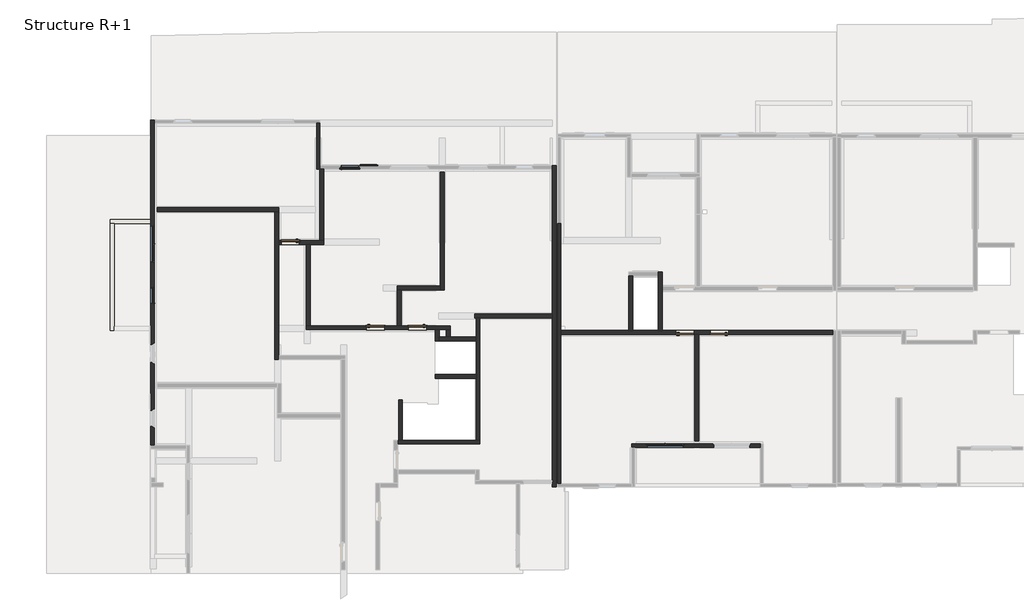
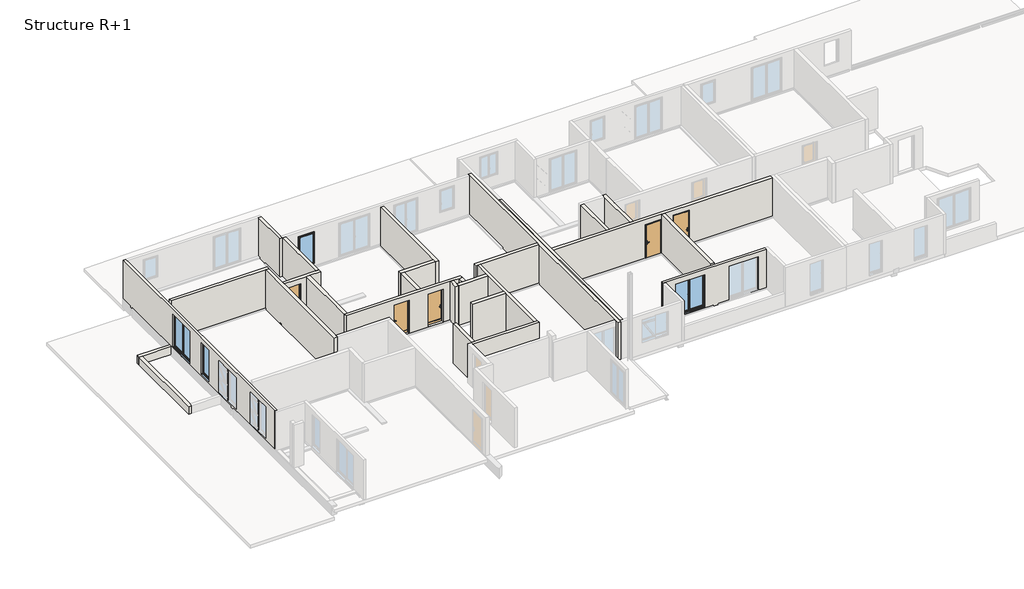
# One storey, part 3 of 11: 28 walls, 5 doors, 4 windows.
"""IFC4 building model written with IfcOpenShell, lengths in millimetres."""

from ifc_helpers import new_model, si_unit, frame, origin, place, context, project, spatial, polyline, outline, extrude, faceted_brep, transform, mapped, element, save
from components import door_88e42b76, door_c2c5d6f6, door_6208809c, door_d4e09bec, window_0_80m_x_2_05m_30132c93, window_0_90m_x_2_05m_de598733, window_1_80m_x_2_15m_7d3a4370

model = new_model("IFC4")

# Units and contexts
model_context = context("Model", 3, world=origin())
ifc_project = project(units=[si_unit("LENGTHUNIT", "METRE", prefix="MILLI")], contexts=[model_context])

# Site, building, storey
site = spatial("IfcSite", under=ifc_project)
building = spatial("IfcBuilding", under=site)
storey = spatial("IfcBuildingStorey", under=building, Name="Structure R+1", Elevation=3320.0)

# Doors
placement = place(None, origin())
door_shape = door_88e42b76(model_context)
element("IfcDoor", 1, ObjectType="Entrée (avec angle d'ouverture) : PP Avec moulures (0.90 m x 2.15 m)", at=placement, inside=storey, context=model_context, shape_type="MappedRepresentation", body=[
    mapped(door_shape, transform((31960.4628816, 22172.4973448, 3320.0), x_axis=(-1.0, 0.0, 0.0), y_axis=(0.0, -1.0, 0.0), z_axis=(0.0, 0.0, 1.0))),
])
door_2_shape = door_c2c5d6f6(model_context)
element("IfcDoor", 2, ObjectType="Entrée (avec angle d'ouverture) : PP Avec moulures (0.90 m x 2.15 m)", at=placement, inside=storey, context=model_context, shape_type="MappedRepresentation", body=[
    mapped(door_2_shape, transform((30253.8905888, 22172.4973448, 3320.0), x_axis=(1.0, 0.0, 0.0), y_axis=(0.0, 1.0, 0.0), z_axis=(0.0, 0.0, 1.0))),
])
door_3_shape = door_6208809c(model_context)
element("IfcDoor", 3, ObjectType="Entrée (avec angle d'ouverture) : PP Lisse (0.90 m x 2.15 m)", at=placement, inside=storey, context=model_context, shape_type="MappedRepresentation", body=[
    mapped(door_3_shape, transform((10498.0962852, 26677.1701287, 3320.0), x_axis=(-1.0, 0.0, 0.0), y_axis=(0.0, -1.0, 0.0), z_axis=(0.0, 0.0, 1.0))),
])
element("IfcDoor", 4, ObjectType="Entrée (avec angle d'ouverture) : PP Lisse (0.90 m x 2.15 m)", at=placement, inside=storey, context=model_context, shape_type="MappedRepresentation", body=[
    mapped(door_3_shape, transform((16855.0745996, 22408.2793913, 3320.0), x_axis=(-1.0, 0.0, 0.0), y_axis=(0.0, -1.0, 0.0), z_axis=(0.0, 0.0, 1.0))),
])
door_4_shape = door_d4e09bec(model_context)
element("IfcDoor", 5, ObjectType="Entrée (avec angle d'ouverture) : PP Lisse (0.90 m x 2.15 m)", at=placement, inside=storey, context=model_context, shape_type="MappedRepresentation", body=[
    mapped(door_4_shape, transform((14775.0745996, 22408.2793913, 3320.0), x_axis=(1.0, 0.0, 0.0), y_axis=(0.0, 1.0, 0.0), z_axis=(0.0, 0.0, 1.0))),
])

# Walls
element("IfcWall", 6, ObjectType="Ext. Voile BA 16 + Isolant 120", at=placement, inside=storey, context=model_context, shape_type="Brep", body=[
    faceted_brep([(34012.3966699, 16591.4013077, 3230.0), (30993.890362, 16591.4013077, 3230.0), (30693.890362, 16591.4013077, 3230.0), (27798.3960659, 16591.4013077, 3230.0), (27586.9796965, 16591.4013077, 3230.0), (27586.9796965, 16591.4013077, 3320.0), (27586.9796965, 16591.4013077, 5830.0), (34012.3966699, 16591.4013077, 5830.0), (34012.3966699, 16591.4013077, 3320.0), (31692.3966699, 16591.4013077, 3355.0), (33492.3966699, 16591.4013077, 3355.0), (33542.3966699, 16591.4013077, 3355.0), (33542.3966699, 16591.4013077, 5555.0), (31642.3966699, 16591.4013077, 5555.0), (31642.3966699, 16591.4013077, 3355.0), (28366.9796965, 16591.4013077, 3355.0), (30166.9796965, 16591.4013077, 3355.0), (30216.9796965, 16591.4013077, 3355.0), (30216.9796965, 16591.4013077, 5555.0), (28316.9796965, 16591.4013077, 5555.0), (28316.9796965, 16591.4013077, 3355.0), (27586.9796965, 16431.4013077, 3230.0), (27798.3960659, 16431.4013077, 3230.0), (30693.890362, 16431.4013077, 3230.0), (30993.890362, 16431.4013077, 3230.0), (34012.3966699, 16431.4013077, 3230.0), (34012.3966699, 16431.4013077, 3320.0), (34012.3966699, 16431.4013077, 5830.0), (27586.9796965, 16431.4013077, 5830.0), (27586.9796965, 16431.4013077, 3320.0), (33492.3966699, 16431.4013077, 5505.0), (33492.3966699, 16431.4013077, 3346.5916612), (31692.3966699, 16431.4013077, 3346.5916612), (31692.3966699, 16431.4013077, 5505.0), (30166.9796965, 16431.4013077, 5505.0), (30166.9796965, 16431.4013077, 3346.5916612), (28366.9796965, 16431.4013077, 3346.5916612), (28366.9796965, 16431.4013077, 5505.0), (33492.3966699, 16491.4013077, 5505.0), (33492.3966699, 16491.4013077, 3355.0), (33492.3966699, 16511.4013077, 3355.0), (31692.3966699, 16511.4013077, 3355.0), (31692.3966699, 16491.4013077, 3355.0), (31692.3966699, 16491.4013077, 5505.0), (33502.3966699, 16491.4013077, 3355.0), (33502.3966699, 16541.4013077, 3355.0), (33542.3966699, 16541.4013077, 3355.0), (31642.3966699, 16541.4013077, 3355.0), (31682.3966699, 16541.4013077, 3355.0), (31682.3966699, 16491.4013077, 3355.0), (33542.3966699, 16541.4013077, 5555.0), (31642.3966699, 16541.4013077, 5555.0), (33502.3966699, 16541.4013077, 5515.0), (31682.3966699, 16541.4013077, 5515.0), (33502.3966699, 16491.4013077, 5515.0), (31682.3966699, 16491.4013077, 5515.0), (30166.9796965, 16491.4013077, 5505.0), (30166.9796965, 16491.4013077, 3355.0), (30166.9796965, 16511.4013077, 3355.0), (28366.9796965, 16511.4013077, 3355.0), (28366.9796965, 16491.4013077, 3355.0), (28366.9796965, 16491.4013077, 5505.0), (30176.9796965, 16491.4013077, 3355.0), (30176.9796965, 16541.4013077, 3355.0), (30216.9796965, 16541.4013077, 3355.0), (28316.9796965, 16541.4013077, 3355.0), (28356.9796965, 16541.4013077, 3355.0), (28356.9796965, 16491.4013077, 3355.0), (30216.9796965, 16541.4013077, 5555.0), (28316.9796965, 16541.4013077, 5555.0), (30176.9796965, 16541.4013077, 5515.0), (28356.9796965, 16541.4013077, 5515.0), (30176.9796965, 16491.4013077, 5515.0), (28356.9796965, 16491.4013077, 5515.0)], [[[0, 1, 2, 3, 4, 5, 6, 7, 8], [9, 10, 11, 12, 13, 14], [15, 16, 17, 18, 19, 20]], [[21, 22, 23, 24, 25, 26, 27, 28, 29], [30, 31, 32, 33], [34, 35, 36, 37]], [[4, 3, 2, 1, 0, 25, 24, 23, 22, 21]], [[7, 6, 28, 27]], [[0, 8, 7, 27, 26, 25]], [[6, 5, 4, 21, 29, 28]], [[38, 39, 40, 31, 30]], [[41, 42, 43, 33, 32]], [[40, 39, 44, 45, 46, 11, 10, 9, 14, 47, 48, 49, 42, 41]], [[43, 38, 30, 33]], [[40, 41, 32, 31]], [[11, 46, 50, 12]], [[48, 47, 51, 50, 46, 45, 52, 53]], [[45, 44, 54, 52]], [[39, 38, 43, 42, 49, 55, 54, 44]], [[12, 50, 51, 13]], [[53, 52, 54, 55]], [[47, 14, 13, 51]], [[49, 48, 53, 55]], [[56, 57, 58, 35, 34]], [[59, 60, 61, 37, 36]], [[58, 57, 62, 63, 64, 17, 16, 15, 20, 65, 66, 67, 60, 59]], [[61, 56, 34, 37]], [[58, 59, 36, 35]], [[17, 64, 68, 18]], [[66, 65, 69, 68, 64, 63, 70, 71]], [[63, 62, 72, 70]], [[57, 56, 61, 60, 67, 73, 72, 62]], [[18, 68, 69, 19]], [[71, 70, 72, 73]], [[65, 20, 19, 69]], [[67, 66, 71, 73]]]),
])
element("IfcWall", 7, ObjectType="Ext. Voile BA 16 + Isolant 120", at=placement, inside=storey, context=model_context, shape_type="Brep", body=[
    faceted_brep([(3696.9058449, 16515.4652425, 5830.0), (3696.9058449, 16515.4652425, 3230.0), (3696.9058449, 32650.6398567, 3230.0), (3696.9058449, 32810.6398567, 3230.0), (3696.9058449, 32810.6398567, 5830.0), (3696.9058449, 32650.6398567, 5830.0), (3696.9058449, 27540.6398567, 3355.0), (3696.9058449, 25640.6398567, 3355.0), (3696.9058449, 25640.6398567, 5555.0), (3696.9058449, 27540.6398567, 5555.0), (3696.9058449, 24460.6398567, 3455.0), (3696.9058449, 23560.6398567, 3455.0), (3696.9058449, 23560.6398567, 5555.0), (3696.9058449, 24460.6398567, 5555.0), (3696.9058449, 21610.6398567, 3455.0), (3696.9058449, 20610.6398567, 3455.0), (3696.9058449, 20610.6398567, 5555.0), (3696.9058449, 21610.6398567, 5555.0), (3696.9058449, 18325.4652425, 3455.0), (3696.9058449, 17425.4652425, 3455.0), (3696.9058449, 17425.4652425, 5555.0), (3696.9058449, 18325.4652425, 5555.0), (3536.9058449, 16515.4652425, 3230.0), (3536.9058449, 16515.4652425, 5830.0), (3536.9058449, 32810.6398567, 5830.0), (3536.9058449, 32810.6398567, 3230.0), (3536.9058449, 25690.6398567, 5505.0), (3536.9058449, 25690.6398567, 3346.5916612), (3536.9058449, 27490.6398567, 3346.5916612), (3536.9058449, 27490.6398567, 5505.0), (3536.9058449, 23610.6398567, 5505.0), (3536.9058449, 23610.6398567, 3446.5916612), (3536.9058449, 24410.6398567, 3446.5916612), (3536.9058449, 24410.6398567, 5505.0), (3536.9058449, 20660.6398567, 5505.0), (3536.9058449, 20660.6398567, 3446.5916612), (3536.9058449, 21560.6398567, 3446.5916612), (3536.9058449, 21560.6398567, 5505.0), (3536.9058449, 17475.4652425, 5505.0), (3536.9058449, 17475.4652425, 3446.5916612), (3536.9058449, 18275.4652425, 3446.5916612), (3536.9058449, 18275.4652425, 5505.0), (3616.9058449, 25690.6398567, 3355.0), (3596.9058449, 25690.6398567, 5505.0), (3596.9058449, 25690.6398567, 3355.0), (3616.9058449, 27490.6398567, 3355.0), (3596.9058449, 27490.6398567, 3355.0), (3596.9058449, 27490.6398567, 5505.0), (3596.9058449, 25680.6398567, 3355.0), (3646.9058449, 25680.6398567, 3355.0), (3646.9058449, 25640.6398567, 3355.0), (3646.9058449, 27540.6398567, 3355.0), (3646.9058449, 27500.6398567, 3355.0), (3596.9058449, 27500.6398567, 3355.0), (3646.9058449, 25640.6398567, 5555.0), (3646.9058449, 25680.6398567, 5515.0), (3646.9058449, 27500.6398567, 5515.0), (3646.9058449, 27540.6398567, 5555.0), (3596.9058449, 25680.6398567, 5515.0), (3596.9058449, 27500.6398567, 5515.0), (3616.9058449, 23610.6398567, 3455.0), (3596.9058449, 23610.6398567, 5505.0), (3596.9058449, 23610.6398567, 3455.0), (3616.9058449, 24410.6398567, 3455.0), (3596.9058449, 24410.6398567, 3455.0), (3596.9058449, 24410.6398567, 5505.0), (3596.9058449, 23600.6398567, 3455.0), (3646.9058449, 23600.6398567, 3455.0), (3646.9058449, 23560.6398567, 3455.0), (3646.9058449, 24460.6398567, 3455.0), (3646.9058449, 24420.6398567, 3455.0), (3596.9058449, 24420.6398567, 3455.0), (3646.9058449, 23560.6398567, 5555.0), (3646.9058449, 23600.6398567, 5515.0), (3646.9058449, 24420.6398567, 5515.0), (3646.9058449, 24460.6398567, 5555.0), (3596.9058449, 23600.6398567, 5515.0), (3596.9058449, 24420.6398567, 5515.0), (3616.9058449, 20660.6398567, 3455.0), (3596.9058449, 20660.6398567, 5505.0), (3596.9058449, 20660.6398567, 3455.0), (3616.9058449, 21560.6398567, 3455.0), (3596.9058449, 21560.6398567, 3455.0), (3596.9058449, 21560.6398567, 5505.0), (3596.9058449, 20650.6398567, 3455.0), (3646.9058449, 20650.6398567, 3455.0), (3646.9058449, 20610.6398567, 3455.0), (3646.9058449, 21610.6398567, 3455.0), (3646.9058449, 21570.6398567, 3455.0), (3596.9058449, 21570.6398567, 3455.0), (3646.9058449, 20610.6398567, 5555.0), (3646.9058449, 20650.6398567, 5515.0), (3646.9058449, 21570.6398567, 5515.0), (3646.9058449, 21610.6398567, 5555.0), (3596.9058449, 20650.6398567, 5515.0), (3596.9058449, 21570.6398567, 5515.0), (3616.9058449, 17475.4652425, 3455.0), (3596.9058449, 17475.4652425, 5505.0), (3596.9058449, 17475.4652425, 3455.0), (3616.9058449, 18275.4652425, 3455.0), (3596.9058449, 18275.4652425, 3455.0), (3596.9058449, 18275.4652425, 5505.0), (3596.9058449, 17465.4652425, 3455.0), (3646.9058449, 17465.4652425, 3455.0), (3646.9058449, 17425.4652425, 3455.0), (3646.9058449, 18325.4652425, 3455.0), (3646.9058449, 18285.4652425, 3455.0), (3596.9058449, 18285.4652425, 3455.0), (3646.9058449, 17425.4652425, 5555.0), (3646.9058449, 17465.4652425, 5515.0), (3646.9058449, 18285.4652425, 5515.0), (3646.9058449, 18325.4652425, 5555.0), (3596.9058449, 17465.4652425, 5515.0), (3596.9058449, 18285.4652425, 5515.0)], [[[0, 1, 2, 3, 4, 5], [6, 7, 8, 9], [10, 11, 12, 13], [14, 15, 16, 17], [18, 19, 20, 21]], [[22, 23, 24, 25], [26, 27, 28, 29], [30, 31, 32, 33], [34, 35, 36, 37], [38, 39, 40, 41]], [[3, 2, 1, 22, 25]], [[0, 5, 4, 24, 23]], [[42, 27, 26, 43, 44]], [[28, 45, 46, 47, 29]], [[42, 45, 28, 27]], [[26, 29, 47, 43]], [[45, 42, 44, 48, 49, 50, 7, 6, 51, 52, 53, 46]], [[7, 50, 54, 8]], [[50, 49, 55, 56, 52, 51, 57, 54]], [[49, 48, 58, 55]], [[48, 44, 43, 47, 46, 53, 59, 58]], [[8, 54, 57, 9]], [[56, 55, 58, 59]], [[57, 51, 6, 9]], [[52, 56, 59, 53]], [[60, 31, 30, 61, 62]], [[32, 63, 64, 65, 33]], [[60, 63, 32, 31]], [[30, 33, 65, 61]], [[63, 60, 62, 66, 67, 68, 11, 10, 69, 70, 71, 64]], [[11, 68, 72, 12]], [[68, 67, 73, 74, 70, 69, 75, 72]], [[67, 66, 76, 73]], [[66, 62, 61, 65, 64, 71, 77, 76]], [[12, 72, 75, 13]], [[74, 73, 76, 77]], [[75, 69, 10, 13]], [[70, 74, 77, 71]], [[78, 35, 34, 79, 80]], [[36, 81, 82, 83, 37]], [[78, 81, 36, 35]], [[34, 37, 83, 79]], [[81, 78, 80, 84, 85, 86, 15, 14, 87, 88, 89, 82]], [[15, 86, 90, 16]], [[86, 85, 91, 92, 88, 87, 93, 90]], [[85, 84, 94, 91]], [[84, 80, 79, 83, 82, 89, 95, 94]], [[16, 90, 93, 17]], [[92, 91, 94, 95]], [[93, 87, 14, 17]], [[88, 92, 95, 89]], [[96, 39, 38, 97, 98]], [[40, 99, 100, 101, 41]], [[96, 99, 40, 39]], [[38, 41, 101, 97]], [[99, 96, 98, 102, 103, 104, 19, 18, 105, 106, 107, 100]], [[19, 104, 108, 20]], [[104, 103, 109, 110, 106, 105, 111, 108]], [[103, 102, 112, 109]], [[102, 98, 97, 101, 100, 107, 113, 112]], [[20, 108, 111, 21]], [[110, 109, 112, 113]], [[111, 105, 18, 21]], [[106, 110, 113, 107]], [[0, 23, 22, 1]], [[3, 25, 24, 4]]]),
])
element("IfcWall", 8, ObjectType="Ext. Voile BA 16 + Isolant 120", at=placement, inside=storey, context=model_context, shape_type="Brep", body=[
    faceted_brep([(11831.9058449, 32650.6398567, 3230.0), (11831.9058449, 30350.6398567, 3230.0), (11831.9058449, 30350.6398567, 5830.0), (11831.9058449, 32650.6398567, 5830.0), (11991.9058449, 32650.6398567, 3230.0), (11991.9058449, 32650.6398567, 5830.0), (11991.9058449, 30510.6398567, 5830.0), (11991.9058449, 30350.6398567, 5830.0), (11991.9058449, 30350.6398567, 3230.0), (11991.9058449, 30510.6398567, 3230.0)], [[[0, 1, 2, 3]], [[4, 5, 6, 7, 8, 9]], [[1, 0, 4, 9, 8]], [[3, 2, 7, 6, 5]], [[0, 3, 5, 4]], [[2, 1, 8, 7]]]),
])
element("IfcWall", 9, ObjectType="Voile BA 16", at=placement, inside=storey, context=model_context, shape_type="Brep", body=[
    faceted_brep([(23871.9389593, 27617.8380864, 3230.0), (23871.9389593, 14597.8380864, 3230.0), (23871.9389593, 14597.8380864, 5830.0), (23871.9389593, 27617.8380864, 5830.0), (24031.9389593, 27617.8380864, 3230.0), (24031.9389593, 27617.8380864, 5830.0), (24031.9389593, 22272.4973448, 5830.0), (24031.9389593, 22072.4973448, 5830.0), (24031.9389593, 14597.8380864, 5830.0), (24031.9389593, 14597.8380864, 3230.0), (24031.9389593, 22072.4973448, 3230.0), (24031.9389593, 22272.4973448, 3230.0)], [[[0, 1, 2, 3]], [[4, 5, 6, 7, 8, 9, 10, 11]], [[1, 0, 4, 11, 10, 9]], [[3, 2, 8, 7, 6, 5]], [[0, 3, 5, 4]], [[1, 9, 8, 2]]]),
])
element("IfcWall", 10, ObjectType="Voile BA 18 + 1 + 1", at=placement, inside=storey, context=model_context, shape_type="Brep", body=[
    faceted_brep([(23619.3795366, 23103.1587423, 3230.0), (19729.8426061, 23103.1587423, 3230.0), (19729.8426061, 23103.1587423, 5830.0), (23619.3795366, 23103.1587423, 5830.0), (23619.3795366, 22903.1587423, 3230.0), (23619.3795366, 22903.1587423, 5830.0), (19989.8425091, 22903.1587423, 5830.0), (19809.8425091, 22903.1587423, 5830.0), (19729.8426061, 22903.1587423, 5830.0), (19729.8426061, 22903.1587423, 3230.0), (19809.8425091, 22903.1587423, 3230.0), (19989.8425091, 22903.1587423, 3230.0)], [[[0, 1, 2, 3]], [[4, 5, 6, 7, 8, 9, 10, 11]], [[1, 0, 4, 11, 10, 9]], [[2, 1, 9, 8]], [[3, 2, 8, 7, 6, 5]], [[0, 3, 5, 4]]]),
])
element("IfcWall", 11, ObjectType="Voile BA 18 + 6", at=placement, inside=storey, context=model_context, shape_type="Brep", body=[
    faceted_brep([(15875.9659642, 16600.9152593, 3230.0), (19989.8425091, 16600.9152593, 3230.0), (19989.8425091, 16600.9152593, 5830.0), (15875.9659642, 16600.9152593, 5830.0), (15875.9659642, 16780.9152593, 3230.0), (15875.9659642, 16780.9152593, 5830.0), (15926.1727456, 16780.9152593, 5830.0), (16106.1727456, 16780.9152593, 5830.0), (19809.8425091, 16780.9152593, 5830.0), (19989.8425091, 16780.9152593, 5830.0), (19989.8425091, 16780.9152593, 3230.0), (19809.8425091, 16780.9152593, 3230.0), (16106.1727456, 16780.9152593, 3230.0), (15926.1727456, 16780.9152593, 3230.0)], [[[0, 1, 2, 3]], [[4, 5, 6, 7, 8, 9, 10, 11, 12, 13]], [[1, 0, 4, 13, 12, 11, 10]], [[3, 2, 9, 8, 7, 6, 5]], [[0, 3, 5, 4]], [[2, 1, 10, 9]]]),
])
element("IfcWall", 12, ObjectType="Voile BA 18 + 6", at=placement, inside=storey, context=model_context, shape_type="Brep", body=[
    faceted_brep([(19989.8425091, 16780.9152593, 3230.0), (19989.8425091, 22903.1587423, 3230.0), (19989.8425091, 22903.1587423, 5830.0), (19989.8425091, 16780.9152593, 5830.0), (19809.8425091, 16780.9152593, 3230.0), (19809.8425091, 16780.9152593, 5830.0), (19809.8425091, 19864.6101745, 5830.0), (19809.8425091, 20064.6101745, 5830.0), (19809.8425091, 21756.9971496, 5830.0), (19809.8425091, 21956.9971496, 5830.0), (19809.8425091, 22903.1587423, 5830.0), (19809.8425091, 22903.1587423, 3230.0), (19809.8425091, 21956.9971496, 3230.0), (19809.8425091, 21756.9971496, 3230.0), (19809.8425091, 20064.6101745, 3230.0), (19809.8425091, 19864.6101745, 3230.0)], [[[0, 1, 2, 3]], [[4, 5, 6, 7, 8, 9, 10, 11, 12, 13, 14, 15]], [[1, 0, 4, 15, 14, 13, 12, 11]], [[3, 2, 10, 9, 8, 7, 6, 5]], [[2, 1, 11, 10]], [[0, 3, 5, 4]]]),
])
element("IfcWall", 13, ObjectType="Voile BA 18 + 6", at=placement, inside=storey, context=model_context, shape_type="SweptSolid", body=[
    extrude(outline(polyline([(15926.1727456, 16780.9152593), (15926.1727456, 18786.3936407), (16106.1727456, 18786.3936407), (16106.1727456, 16780.9152593), (15926.1727456, 16780.9152593)])), frame((0.0, 0.0, 3230.0), z_axis=(0.0, 0.0, 1.0), x_axis=(1.0, 0.0, 0.0)), (0.0, 0.0, 1.0), 2600.0),
])
element("IfcWall", 14, ObjectType="Voile BA 20", at=placement, inside=storey, context=model_context, shape_type="SweptSolid", body=[
    extrude(outline(polyline([(30743.8905888, 16752.4013077), (30743.8905888, 22072.4973448), (30943.8905888, 22072.4973448), (30943.8905888, 16752.4013077), (30743.8905888, 16752.4013077)])), frame((0.0, 0.0, 3230.0), z_axis=(0.0, 0.0, 1.0), x_axis=(1.0, 0.0, 0.0)), (0.0, 0.0, 1.0), 2600.0),
])
element("IfcWall", 15, ObjectType="Voile BA 20", at=placement, inside=storey, context=model_context, shape_type="Brep", body=[
    faceted_brep([(23819.3795366, 14437.8369553, 3230.0), (23819.3795366, 30510.6398567, 3230.0), (23819.3795366, 30510.6398567, 5830.0), (23819.3795366, 14437.8369553, 5830.0), (23619.3795366, 30510.6398567, 3230.0), (23619.3795366, 30350.6398567, 3230.0), (23619.3795366, 23103.1587423, 3230.0), (23619.3795366, 22903.1587423, 3230.0), (23619.3795366, 14760.8367198, 3230.0), (23619.3795366, 14600.8367198, 3230.0), (23619.3795366, 14437.8369553, 3230.0), (23619.3795366, 14437.8369553, 5830.0), (23619.3795366, 14600.8367198, 5830.0), (23619.3795366, 14760.8367198, 5830.0), (23619.3795366, 22903.1587423, 5830.0), (23619.3795366, 23103.1587423, 5830.0), (23619.3795366, 30350.6398567, 5830.0), (23619.3795366, 30510.6398567, 5830.0), (23619.3795366, 14710.8367198, 3355.0), (23619.3795366, 14760.8367198, 3355.0), (23619.3795366, 14760.8367198, 5555.0), (23619.3795366, 14710.8367198, 5555.0), (23635.8013446, 14710.8367198, 3355.0), (23635.8013446, 14760.8367198, 3355.0), (23635.8013446, 14710.8367198, 5555.0), (23635.8013446, 14760.8367198, 5555.0)], [[[0, 1, 2, 3]], [[4, 5, 6, 7, 8, 9, 10, 11, 12, 13, 14, 15, 16, 17], [18, 19, 20, 21]], [[1, 0, 10, 9, 8, 7, 6, 5, 4]], [[3, 2, 17, 16, 15, 14, 13, 12, 11]], [[0, 3, 11, 10]], [[22, 23, 19, 18]], [[23, 22, 24, 25]], [[24, 22, 18, 21]], [[23, 25, 20, 19]], [[25, 24, 21, 20]], [[1, 4, 17, 2]]]),
])
element("IfcWall", 16, ObjectType="Voile BA 20", at=placement, inside=storey, context=model_context, shape_type="Brep", body=[
    faceted_brep([(9925.0967812, 28424.6168533, 3230.0), (3857.9058449, 28424.6168533, 3230.0), (3857.9058449, 28424.6168533, 5830.0), (9925.0967812, 28424.6168533, 5830.0), (9925.0967812, 28224.6168533, 3230.0), (9925.0967812, 28224.6168533, 5830.0), (9725.0967812, 28224.6168533, 5830.0), (3857.9058449, 28224.6168533, 5830.0), (3857.9058449, 28224.6168533, 3230.0), (9725.0967812, 28224.6168533, 3230.0)], [[[0, 1, 2, 3]], [[4, 5, 6, 7, 8, 9]], [[1, 0, 4, 9, 8]], [[2, 1, 8, 7]], [[3, 2, 7, 6, 5]], [[0, 3, 5, 4]]]),
])
element("IfcWall", 17, ObjectType="Voile BA 20", at=placement, inside=storey, context=model_context, shape_type="SweptSolid", body=[
    extrude(outline(polyline([(12191.8651786, 30350.6398567), (12191.8651786, 26777.1701287), (11991.8651786, 26777.1701287), (11991.8651786, 30350.6398567), (12191.8651786, 30350.6398567)])), frame((0.0, 0.0, 3230.0), z_axis=(0.0, 0.0, 1.0), x_axis=(1.0, 0.0, 0.0)), (0.0, 0.0, 1.0), 2600.0),
])
element("IfcWall", 18, ObjectType="Voile BA 20", at=placement, inside=storey, context=model_context, shape_type="Brep", body=[
    faceted_brep([(17997.5327635, 30189.6398567, 3230.0), (17997.5327635, 24503.1590231, 3230.0), (17997.5327635, 24303.1590231, 3230.0), (17997.5327635, 24303.1590231, 5830.0), (17997.5327635, 24503.1590231, 5830.0), (17997.5327635, 30189.6398567, 5830.0), (18197.5327635, 30189.6398567, 3230.0), (18197.5327635, 30189.6398567, 5830.0), (18197.5327635, 24303.1590231, 5830.0), (18197.5327635, 24303.1590231, 3230.0)], [[[0, 1, 2, 3, 4, 5]], [[6, 7, 8, 9]], [[2, 1, 0, 6, 9]], [[5, 4, 3, 8, 7]], [[0, 5, 7, 6]], [[3, 2, 9, 8]]]),
])
element("IfcWall", 19, ObjectType="Voile BA 20", at=placement, inside=storey, context=model_context, shape_type="Brep", body=[
    faceted_brep([(17997.5327635, 24503.1590231, 3230.0), (15851.5704733, 24503.1590231, 3230.0), (15851.5704733, 24503.1590231, 5830.0), (17997.5327635, 24503.1590231, 5830.0), (17997.5327635, 24303.1590231, 3230.0), (17997.5327635, 24303.1590231, 5830.0), (16051.5704733, 24303.1590231, 5830.0), (15851.5704733, 24303.1590231, 5830.0), (15851.5704733, 24303.1590231, 3230.0), (16051.5704733, 24303.1590231, 3230.0)], [[[0, 1, 2, 3]], [[4, 5, 6, 7, 8, 9]], [[1, 0, 4, 9, 8]], [[3, 2, 7, 6, 5]], [[0, 3, 5, 4]], [[2, 1, 8, 7]]]),
])
element("IfcWall", 20, ObjectType="Voile BA 20", at=placement, inside=storey, context=model_context, shape_type="SweptSolid", body=[
    extrude(outline(polyline([(15851.5704733, 22508.2793913), (15851.5704733, 24303.1590231), (16051.5704733, 24303.1590231), (16051.5704733, 22508.2793913), (15851.5704733, 22508.2793913)])), frame((0.0, 0.0, 3230.0), z_axis=(0.0, 0.0, 1.0), x_axis=(1.0, 0.0, 0.0)), (0.0, 0.0, 1.0), 2600.0),
])
element("IfcWall", 21, ObjectType="Voile BA 20", at=placement, inside=storey, context=model_context, shape_type="SweptSolid", body=[
    extrude(outline(polyline([(17759.7079091, 20064.6101745), (19809.8425091, 20064.6101745), (19809.8425091, 19864.6101745), (17759.7079091, 19864.6101745), (17759.7079091, 20064.6101745)])), frame((0.0, 0.0, 3230.0), z_axis=(0.0, 0.0, 1.0), x_axis=(1.0, 0.0, 0.0)), (0.0, 0.0, 1.0), 2600.0),
])
element("IfcWall", 22, ObjectType="Voile BA 20", at=placement, inside=storey, context=model_context, shape_type="Brep", body=[
    faceted_brep([(17765.0745996, 22308.2793913, 3230.0), (17765.0745996, 21756.9971496, 3230.0), (17765.0745996, 21756.9971496, 5830.0), (17765.0745996, 22308.2793913, 5830.0), (17965.0745996, 22308.2793913, 3230.0), (17965.0745996, 22308.2793913, 5830.0), (17965.0745996, 21956.9971496, 5830.0), (17965.0745996, 21756.9971496, 5830.0), (17965.0745996, 21756.9971496, 3230.0), (17965.0745996, 21956.9971496, 3230.0)], [[[0, 1, 2, 3]], [[4, 5, 6, 7, 8, 9]], [[1, 0, 4, 9, 8]], [[3, 2, 7, 6, 5]], [[2, 1, 8, 7]], [[0, 3, 5, 4]]]),
])
element("IfcWall", 23, ObjectType="Voile BA 20", at=placement, inside=storey, context=model_context, shape_type="SweptSolid", body=[
    extrude(outline(polyline([(18319.8867117, 21956.9971496), (18319.8867117, 22308.2793913), (18519.8867117, 22308.2793913), (18519.8867117, 21956.9971496), (18319.8867117, 21956.9971496)])), frame((0.0, 0.0, 3230.0), z_axis=(0.0, 0.0, 1.0), x_axis=(1.0, 0.0, 0.0)), (0.0, 0.0, 1.0), 2600.0),
])
element("IfcWall", 24, ObjectType="Voile BA 20", at=placement, inside=storey, context=model_context, shape_type="Brep", body=[
    faceted_brep([(3530.7006162, 27813.7289873, 2830.0), (1507.5836831, 27813.7289873, 2830.0), (1507.5836831, 27813.7289873, 3330.0), (3530.7006162, 27813.7289873, 3330.0), (3530.7006162, 27613.7289873, 2830.0), (3530.7006162, 27613.7289873, 3330.0), (1707.5836831, 27613.7289873, 3330.0), (1507.5836831, 27613.7289873, 3330.0), (1507.5836831, 27613.7289873, 2830.0), (1707.5836831, 27613.7289873, 2830.0)], [[[0, 1, 2, 3]], [[4, 5, 6, 7, 8, 9]], [[1, 0, 4, 9, 8]], [[3, 2, 7, 6, 5]], [[0, 3, 5, 4]], [[2, 1, 8, 7]]]),
])
element("IfcWall", 25, ObjectType="Voile BA 20", at=placement, inside=storey, context=model_context, shape_type="Brep", body=[
    faceted_brep([(1507.5836831, 27613.7289873, 2830.0), (1507.5836831, 22262.3094257, 2830.0), (1507.5836831, 22262.3094257, 3330.0), (1507.5836831, 27613.7289873, 3330.0), (1707.5836831, 27613.7289873, 2830.0), (1707.5836831, 27613.7289873, 3330.0), (1707.5836831, 22462.3094257, 3330.0), (1707.5836831, 22262.3094257, 3330.0), (1707.5836831, 22262.3094257, 2830.0), (1707.5836831, 22462.3094257, 2830.0)], [[[0, 1, 2, 3]], [[4, 5, 6, 7, 8, 9]], [[1, 0, 4, 9, 8]], [[3, 2, 7, 6, 5]], [[0, 3, 5, 4]], [[2, 1, 8, 7]]]),
])
element("IfcWall", 26, ObjectType="Voile BA 20 + Isolant 60", at=placement, inside=storey, context=model_context, shape_type="Brep", body=[
    faceted_brep([(24031.9389593, 22072.4973448, 3230.0), (30743.8905888, 22072.4973448, 3230.0), (30943.8905888, 22072.4973448, 3230.0), (37647.390788, 22072.4973448, 3230.0), (37647.390788, 22072.4973448, 5830.0), (30943.8905888, 22072.4973448, 5830.0), (30743.8905888, 22072.4973448, 5830.0), (24031.9389593, 22072.4973448, 5830.0), (31510.4628816, 22072.4973448, 3320.0), (31480.4628816, 22072.4973448, 3320.0), (31480.4628816, 22072.4973448, 5510.0), (32460.4628816, 22072.4973448, 5510.0), (32460.4628816, 22072.4973448, 3320.0), (32430.4628816, 22072.4973448, 3320.0), (29783.8905888, 22072.4973448, 3320.0), (29753.8905888, 22072.4973448, 3320.0), (29753.8905888, 22072.4973448, 5510.0), (30733.8905888, 22072.4973448, 5510.0), (30733.8905888, 22072.4973448, 3320.0), (30703.8905888, 22072.4973448, 3320.0), (37647.390788, 22272.4973448, 3230.0), (29098.3678937, 22272.4973448, 3230.0), (28898.3678937, 22272.4973448, 3230.0), (27626.9395184, 22272.4973448, 3230.0), (27426.9395184, 22272.4973448, 3230.0), (24031.9389593, 22272.4973448, 3230.0), (24031.9389593, 22272.4973448, 5830.0), (27426.9395184, 22272.4973448, 5830.0), (27626.9395184, 22272.4973448, 5830.0), (28898.3678937, 22272.4973448, 5830.0), (29098.3678937, 22272.4973448, 5830.0), (37647.390788, 22272.4973448, 5830.0), (32430.4628816, 22272.4973448, 5480.0), (31510.4628816, 22272.4973448, 5480.0), (31510.4628816, 22272.4973448, 3320.0), (32430.4628816, 22272.4973448, 3320.0), (30703.8905888, 22272.4973448, 5480.0), (29783.8905888, 22272.4973448, 5480.0), (29783.8905888, 22272.4973448, 3320.0), (30703.8905888, 22272.4973448, 3320.0), (32430.4628816, 22172.4973448, 5480.0), (31510.4628816, 22172.4973448, 5480.0), (32445.4628816, 22172.4973448, 3320.0), (32430.4628816, 22172.4973448, 3320.0), (31510.4628816, 22172.4973448, 3320.0), (31495.4628816, 22172.4973448, 3320.0), (31495.4628816, 22129.4973448, 3320.0), (31480.4628816, 22129.4973448, 3320.0), (32460.4628816, 22129.4973448, 3320.0), (32445.4628816, 22129.4973448, 3320.0), (32460.4628816, 22129.4973448, 5510.0), (31480.4628816, 22129.4973448, 5510.0), (31495.4628816, 22129.4973448, 5495.0), (32445.4628816, 22129.4973448, 5495.0), (32445.4628816, 22172.4973448, 5495.0), (31495.4628816, 22172.4973448, 5495.0), (30703.8905888, 22172.4973448, 5480.0), (29783.8905888, 22172.4973448, 5480.0), (29783.8905888, 22172.4973448, 3320.0), (29768.8905888, 22172.4973448, 3320.0), (29768.8905888, 22129.4973448, 3320.0), (29753.8905888, 22129.4973448, 3320.0), (30733.8905888, 22129.4973448, 3320.0), (30718.8905888, 22129.4973448, 3320.0), (30718.8905888, 22172.4973448, 3320.0), (30703.8905888, 22172.4973448, 3320.0), (29768.8905888, 22129.4973448, 5495.0), (30718.8905888, 22129.4973448, 5495.0), (30733.8905888, 22129.4973448, 5510.0), (29753.8905888, 22129.4973448, 5510.0), (29768.8905888, 22172.4973448, 5495.0), (30718.8905888, 22172.4973448, 5495.0)], [[[0, 1, 2, 3, 4, 5, 6, 7], [8, 9, 10, 11, 12, 13], [14, 15, 16, 17, 18, 19]], [[20, 21, 22, 23, 24, 25, 26, 27, 28, 29, 30, 31], [32, 33, 34, 35], [36, 37, 38, 39]], [[3, 2, 1, 0, 25, 24, 23, 22, 21, 20]], [[7, 6, 5, 4, 31, 30, 29, 28, 27, 26]], [[0, 7, 26, 25]], [[40, 41, 33, 32]], [[42, 43, 35, 34, 44, 45, 46, 47, 9, 8, 13, 12, 48, 49]], [[41, 44, 34, 33]], [[43, 40, 32, 35]], [[49, 48, 50, 51, 47, 46, 52, 53]], [[48, 12, 11, 50]], [[51, 50, 11, 10]], [[9, 47, 51, 10]], [[42, 49, 53, 54]], [[41, 40, 43, 42, 54, 55, 45, 44]], [[53, 52, 55, 54]], [[46, 45, 55, 52]], [[56, 57, 37, 36]], [[58, 59, 60, 61, 15, 14, 19, 18, 62, 63, 64, 65, 39, 38]], [[65, 56, 36, 39]], [[57, 58, 38, 37]], [[61, 60, 66, 67, 63, 62, 68, 69]], [[15, 61, 69, 16]], [[69, 68, 17, 16]], [[62, 18, 17, 68]], [[60, 59, 70, 66]], [[57, 56, 65, 64, 71, 70, 59, 58]], [[67, 66, 70, 71]], [[64, 63, 67, 71]], [[4, 3, 20, 31]]]),
])
element("IfcWall", 27, ObjectType="Voile BA 20 + Isolant 60", at=placement, inside=storey, context=model_context, shape_type="Brep", body=[
    faceted_brep([(29098.3678937, 22272.4973448, 3230.0), (29098.3678937, 24272.4965623, 3230.0), (29098.3678937, 24472.4965623, 3230.0), (29098.3678937, 25207.8260092, 3230.0), (29098.3678937, 25207.8260092, 5830.0), (29098.3678937, 24472.4965623, 5830.0), (29098.3678937, 24272.4965623, 5830.0), (29098.3678937, 22272.4973448, 5830.0), (28898.3678937, 22272.4973448, 3230.0), (28898.3678937, 22272.4973448, 5830.0), (28898.3678937, 25007.8260092, 5830.0), (28898.3678937, 25207.8260092, 5830.0), (28898.3678937, 25207.8260092, 3230.0), (28898.3678937, 25007.8260092, 3230.0)], [[[0, 1, 2, 3, 4, 5, 6, 7]], [[8, 9, 10, 11, 12, 13]], [[3, 2, 1, 0, 8, 13, 12]], [[7, 6, 5, 4, 11, 10, 9]], [[0, 7, 9, 8]], [[4, 3, 12, 11]]]),
])
element("IfcWall", 28, ObjectType="Voile BA 20 + Isolant 60", at=placement, inside=storey, context=model_context, shape_type="SweptSolid", body=[
    extrude(outline(polyline([(27426.9395184, 22272.4973448), (27426.9395184, 25007.8260092), (27626.9395184, 25007.8260092), (27626.9395184, 22272.4973448), (27426.9395184, 22272.4973448)])), frame((0.0, 0.0, 3230.0), z_axis=(0.0, 0.0, 1.0), x_axis=(1.0, 0.0, 0.0)), (0.0, 0.0, 1.0), 2600.0),
])
element("IfcWall", 29, ObjectType="Voile BA 20 + Isolant 60", at=placement, inside=storey, context=model_context, shape_type="Brep", body=[
    faceted_brep([(11299.8867117, 22508.2793913, 5830.0), (11499.8867117, 22508.2793913, 5830.0), (15851.5704733, 22508.2793913, 5830.0), (16051.5704733, 22508.2793913, 5830.0), (18519.8867117, 22508.2793913, 5830.0), (18519.8867117, 22508.2793913, 3230.0), (17965.0880762, 22508.2793913, 3230.0), (17965.0880762, 22508.2793913, 3320.0), (17765.0880762, 22508.2793913, 3320.0), (17765.0880762, 22508.2793913, 3230.0), (16051.5704733, 22508.2793913, 3230.0), (15851.5704733, 22508.2793913, 3230.0), (11499.8867117, 22508.2793913, 3230.0), (11299.8867117, 22508.2793913, 3230.0), (15225.0745996, 22508.2793913, 3320.0), (15255.0745996, 22508.2793913, 3320.0), (15255.0745996, 22508.2793913, 5510.0), (14275.0745996, 22508.2793913, 5510.0), (14275.0745996, 22508.2793913, 3320.0), (14305.0745996, 22508.2793913, 3320.0), (17325.0745996, 22508.2793913, 3320.0), (17355.0745996, 22508.2793913, 3320.0), (17355.0745996, 22508.2793913, 5510.0), (16375.0745996, 22508.2793913, 5510.0), (16375.0745996, 22508.2793913, 3320.0), (16405.0745996, 22508.2793913, 3320.0), (18519.8867117, 22308.2793913, 5830.0), (18319.8867117, 22308.2793913, 5830.0), (17965.0745996, 22308.2793913, 5830.0), (17765.0745996, 22308.2793913, 5830.0), (11299.8867117, 22308.2793913, 5830.0), (11299.8867117, 22308.2793913, 3230.0), (17765.0880762, 22308.2793913, 3230.0), (17765.0880762, 22308.2793913, 3320.0), (17965.0880762, 22308.2793913, 3320.0), (17965.0880762, 22308.2793913, 3230.0), (18319.8867117, 22308.2793913, 3230.0), (18519.8867117, 22308.2793913, 3230.0), (14305.0745996, 22308.2793913, 5480.0), (15225.0745996, 22308.2793913, 5480.0), (15225.0745996, 22308.2793913, 3320.0), (14305.0745996, 22308.2793913, 3320.0), (16405.0745996, 22308.2793913, 5480.0), (17325.0745996, 22308.2793913, 5480.0), (17325.0745996, 22308.2793913, 3320.0), (16405.0745996, 22308.2793913, 3320.0), (14305.0745996, 22408.2793913, 5480.0), (15225.0745996, 22408.2793913, 5480.0), (14290.0745996, 22408.2793913, 3320.0), (14305.0745996, 22408.2793913, 3320.0), (15225.0745996, 22408.2793913, 3320.0), (15240.0745996, 22408.2793913, 3320.0), (15240.0745996, 22451.2793913, 3320.0), (15255.0745996, 22451.2793913, 3320.0), (14275.0745996, 22451.2793913, 3320.0), (14290.0745996, 22451.2793913, 3320.0), (14275.0745996, 22451.2793913, 5510.0), (15255.0745996, 22451.2793913, 5510.0), (15240.0745996, 22451.2793913, 5495.0), (14290.0745996, 22451.2793913, 5495.0), (14290.0745996, 22408.2793913, 5495.0), (15240.0745996, 22408.2793913, 5495.0), (16405.0745996, 22408.2793913, 5480.0), (17325.0745996, 22408.2793913, 5480.0), (17325.0745996, 22408.2793913, 3320.0), (17340.0745996, 22408.2793913, 3320.0), (17340.0745996, 22451.2793913, 3320.0), (17355.0745996, 22451.2793913, 3320.0), (16375.0745996, 22451.2793913, 3320.0), (16390.0745996, 22451.2793913, 3320.0), (16390.0745996, 22408.2793913, 3320.0), (16405.0745996, 22408.2793913, 3320.0), (17340.0745996, 22451.2793913, 5495.0), (16390.0745996, 22451.2793913, 5495.0), (16375.0745996, 22451.2793913, 5510.0), (17355.0745996, 22451.2793913, 5510.0), (17340.0745996, 22408.2793913, 5495.0), (16390.0745996, 22408.2793913, 5495.0)], [[[0, 1, 2, 3, 4, 5, 6, 7, 8, 9, 10, 11, 12, 13], [14, 15, 16, 17, 18, 19], [20, 21, 22, 23, 24, 25]], [[26, 27, 28, 29, 30, 31, 32, 33, 34, 35, 36, 37], [38, 39, 40, 41], [42, 43, 44, 45]], [[31, 13, 12, 11, 10, 9, 32]], [[5, 37, 36, 35, 6]], [[4, 3, 2, 1, 0, 30, 29, 28, 27, 26]], [[0, 13, 31, 30]], [[46, 47, 39, 38]], [[48, 49, 41, 40, 50, 51, 52, 53, 15, 14, 19, 18, 54, 55]], [[47, 50, 40, 39]], [[49, 46, 38, 41]], [[55, 54, 56, 57, 53, 52, 58, 59]], [[54, 18, 17, 56]], [[57, 56, 17, 16]], [[15, 53, 57, 16]], [[48, 55, 59, 60]], [[47, 46, 49, 48, 60, 61, 51, 50]], [[59, 58, 61, 60]], [[52, 51, 61, 58]], [[62, 63, 43, 42]], [[64, 65, 66, 67, 21, 20, 25, 24, 68, 69, 70, 71, 45, 44]], [[71, 62, 42, 45]], [[63, 64, 44, 43]], [[67, 66, 72, 73, 69, 68, 74, 75]], [[21, 67, 75, 22]], [[75, 74, 23, 22]], [[68, 24, 23, 74]], [[66, 65, 76, 72]], [[63, 62, 71, 70, 77, 76, 65, 64]], [[73, 72, 76, 77]], [[70, 69, 73, 77]], [[5, 4, 26, 37]], [[8, 33, 32, 9]], [[34, 7, 6, 35]], [[33, 8, 7, 34]]]),
])
element("IfcWall", 30, ObjectType="Voile BA 20 + Isolant 60", at=placement, inside=storey, context=model_context, shape_type="SweptSolid", body=[
    extrude(outline(polyline([(11499.8867117, 26577.1701287), (11499.8867117, 22508.2793913), (11299.8867117, 22508.2793913), (11299.8867117, 26577.1701287), (11499.8867117, 26577.1701287)])), frame((0.0, 0.0, 3230.0), z_axis=(0.0, 0.0, 1.0), x_axis=(1.0, 0.0, 0.0)), (0.0, 0.0, 1.0), 2600.0),
])
element("IfcWall", 31, ObjectType="Voile BA 20 + Isolant 60", at=placement, inside=storey, context=model_context, shape_type="Brep", body=[
    faceted_brep([(12191.8651786, 26777.1701287, 3230.0), (11991.8651786, 26777.1701287, 3230.0), (9925.0967812, 26777.1701287, 3230.0), (9925.0967812, 26777.1701287, 5830.0), (11991.8651786, 26777.1701287, 5830.0), (12191.8651786, 26777.1701287, 5830.0), (10968.0962852, 26777.1701287, 3320.0), (10998.0962852, 26777.1701287, 3320.0), (10998.0962852, 26777.1701287, 5510.0), (10018.0962852, 26777.1701287, 5510.0), (10018.0962852, 26777.1701287, 3320.0), (10048.0962852, 26777.1701287, 3320.0), (9925.0967812, 26577.1701287, 3230.0), (11299.8867117, 26577.1701287, 3230.0), (11499.8867117, 26577.1701287, 3230.0), (12191.8651786, 26577.1701287, 3230.0), (12191.8651786, 26577.1701287, 5830.0), (11499.8867117, 26577.1701287, 5830.0), (11299.8867117, 26577.1701287, 5830.0), (9925.0967812, 26577.1701287, 5830.0), (10048.0962852, 26577.1701287, 5480.0), (10968.0962852, 26577.1701287, 5480.0), (10968.0962852, 26577.1701287, 3320.0), (10048.0962852, 26577.1701287, 3320.0), (10048.0962852, 26677.1701287, 5480.0), (10968.0962852, 26677.1701287, 5480.0), (10968.0962852, 26677.1701287, 3320.0), (10983.0962852, 26677.1701287, 3320.0), (10983.0962852, 26720.1701287, 3320.0), (10998.0962852, 26720.1701287, 3320.0), (10018.0962852, 26720.1701287, 3320.0), (10033.0962852, 26720.1701287, 3320.0), (10033.0962852, 26677.1701287, 3320.0), (10048.0962852, 26677.1701287, 3320.0), (10983.0962852, 26720.1701287, 5495.0), (10033.0962852, 26720.1701287, 5495.0), (10018.0962852, 26720.1701287, 5510.0), (10998.0962852, 26720.1701287, 5510.0), (10983.0962852, 26677.1701287, 5495.0), (10033.0962852, 26677.1701287, 5495.0)], [[[0, 1, 2, 3, 4, 5], [6, 7, 8, 9, 10, 11]], [[12, 13, 14, 15, 16, 17, 18, 19], [20, 21, 22, 23]], [[2, 1, 0, 15, 14, 13, 12]], [[5, 4, 3, 19, 18, 17, 16]], [[0, 5, 16, 15]], [[24, 25, 21, 20]], [[26, 27, 28, 29, 7, 6, 11, 10, 30, 31, 32, 33, 23, 22]], [[33, 24, 20, 23]], [[25, 26, 22, 21]], [[29, 28, 34, 35, 31, 30, 36, 37]], [[7, 29, 37, 8]], [[37, 36, 9, 8]], [[30, 10, 9, 36]], [[28, 27, 38, 34]], [[25, 24, 33, 32, 39, 38, 27, 26]], [[35, 34, 38, 39]], [[32, 31, 35, 39]], [[3, 2, 12, 19]]]),
])
element("IfcWall", 32, ObjectType="Voile BA 20 + Isolant 60", at=placement, inside=storey, context=model_context, shape_type="Brep", body=[
    faceted_brep([(9725.0967812, 28224.6168533, 3230.0), (9725.0967812, 20828.4825692, 3230.0), (9725.0967812, 20828.4825692, 5830.0), (9725.0967812, 28224.6168533, 5830.0), (9925.0967812, 28224.6168533, 3230.0), (9925.0967812, 28224.6168533, 5830.0), (9925.0967812, 26777.1701287, 5830.0), (9925.0967812, 26577.1701287, 5830.0), (9925.0967812, 21028.4825692, 5830.0), (9925.0967812, 20828.4825692, 5830.0), (9925.0967812, 20828.4825692, 3230.0), (9925.0967812, 21028.4825692, 3230.0), (9925.0967812, 26577.1701287, 3230.0), (9925.0967812, 26777.1701287, 3230.0)], [[[0, 1, 2, 3]], [[4, 5, 6, 7, 8, 9, 10, 11, 12, 13]], [[1, 0, 4, 13, 12, 11, 10]], [[3, 2, 9, 8, 7, 6, 5]], [[2, 1, 10, 9]], [[0, 3, 5, 4]]]),
])
element("IfcWall", 33, ObjectType="Voile BA 20 + Isolant 60", at=placement, inside=storey, context=model_context, shape_type="Brep", body=[
    faceted_brep([(19809.8425091, 21956.9971496, 3230.0), (18519.8867117, 21956.9971496, 3230.0), (18319.8867117, 21956.9971496, 3230.0), (17965.0745996, 21956.9971496, 3230.0), (17965.0745996, 21956.9971496, 5830.0), (18319.8867117, 21956.9971496, 5830.0), (18519.8867117, 21956.9971496, 5830.0), (19809.8425091, 21956.9971496, 5830.0), (19809.8425091, 21756.9971496, 3230.0), (19809.8425091, 21756.9971496, 5830.0), (17965.0745996, 21756.9971496, 5830.0), (17965.0745996, 21756.9971496, 3230.0)], [[[0, 1, 2, 3, 4, 5, 6, 7]], [[8, 9, 10, 11]], [[3, 2, 1, 0, 8, 11]], [[7, 6, 5, 4, 10, 9]], [[0, 7, 9, 8]], [[4, 3, 11, 10]]]),
])

# Windows
window_0_80m_x_2_05m_shape = window_0_80m_x_2_05m_30132c93(model_context)
element("IfcWindow", 34, ObjectType="PF 1 Vantail - Droite : 0.80m x 2.05m", at=placement, inside=storey, context=model_context, shape_type="MappedRepresentation", body=[
    mapped(window_0_80m_x_2_05m_shape, transform((3616.9058449, 24010.6398567, 3420.0), x_axis=(0.0, 1.0, 0.0), y_axis=(-1.0, 0.0, 0.0), z_axis=(0.0, 0.0, 1.0))),
])
window_0_90m_x_2_05m_shape = window_0_90m_x_2_05m_de598733(model_context)
element("IfcWindow", 35, ObjectType="PF 1 Vantail droit - Volet et petits bois : 0.90m x 2.05m", at=placement, inside=storey, context=model_context, shape_type="MappedRepresentation", body=[
    mapped(window_0_90m_x_2_05m_shape, transform((13491.9058449, 30430.6398567, 3420.0), x_axis=(1.0, 0.0, 0.0), y_axis=(0.0, 1.0, 0.0), z_axis=(0.0, 0.0, 1.0))),
])
window_1_80m_x_2_15m_shape = window_1_80m_x_2_15m_7d3a4370(model_context)
element("IfcWindow", 36, ObjectType="PF 2 Vantaux - Droits : 1.80m x 2.15m", at=placement, inside=storey, context=model_context, shape_type="MappedRepresentation", body=[
    mapped(window_1_80m_x_2_15m_shape, transform((29266.9796965, 16511.4013077, 3320.0), x_axis=(-1.0, 0.0, 0.0), y_axis=(0.0, -1.0, 0.0), z_axis=(0.0, 0.0, 1.0))),
])
element("IfcWindow", 37, ObjectType="PF 2 Vantaux - Droits : 1.80m x 2.15m", at=placement, inside=storey, context=model_context, shape_type="MappedRepresentation", body=[
    mapped(window_1_80m_x_2_15m_shape, transform((3616.9058449, 26590.6398567, 3320.0), x_axis=(0.0, 1.0, 0.0), y_axis=(-1.0, 0.0, 0.0), z_axis=(0.0, 0.0, 1.0))),
])

save(model, "model.ifc")
